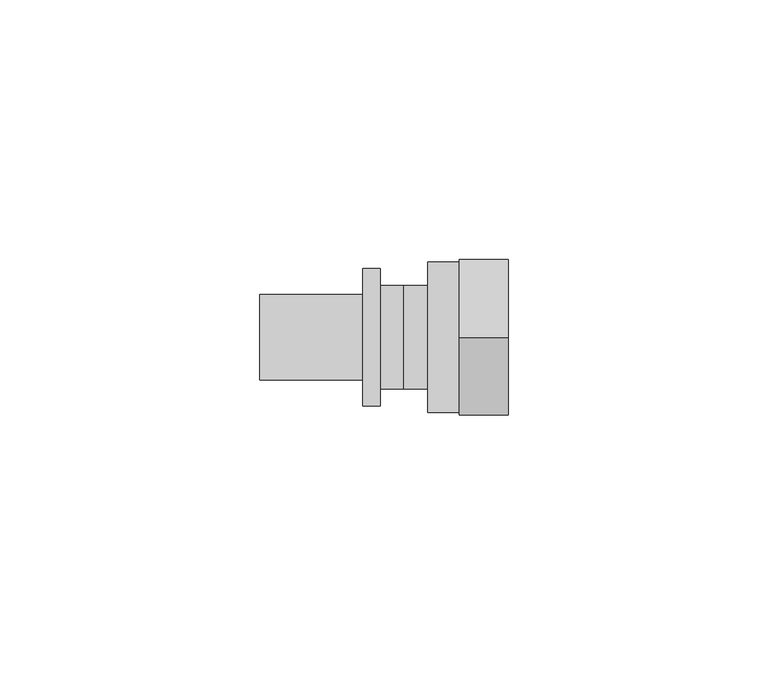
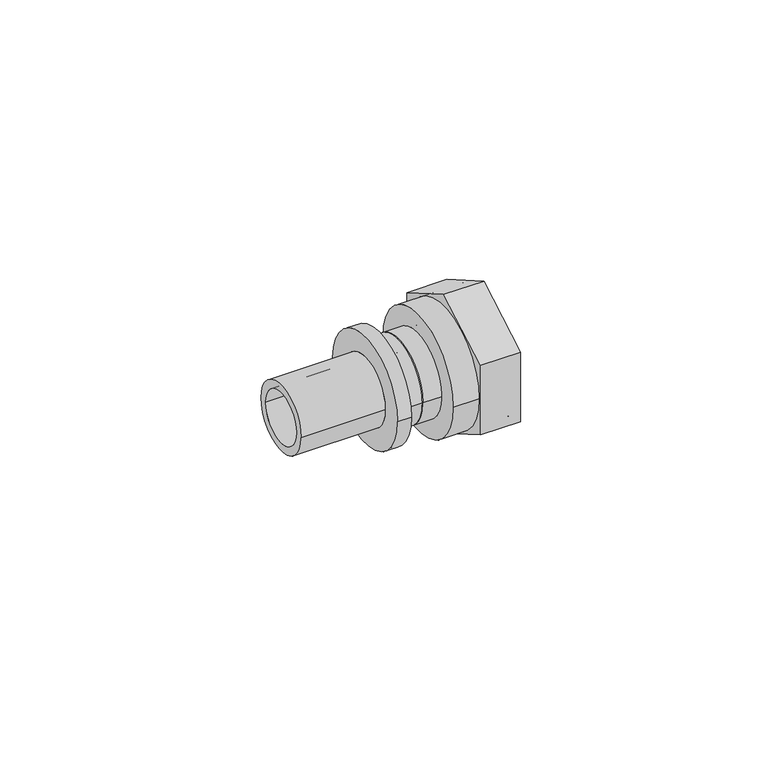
"""IFC4 building model written with IfcOpenShell, lengths in millimetres: pipe fitting geometry, REHAU_RAUTITAN_Adaptor_RX+_union nut : REHAU_RAUTITAN_Adaptor_RX+_union nut."""

from ifc_helpers import new_model, si_unit, point, frame, origin, origin_2d, place, context, project, spatial, polyline, circle_curve, trimmed, segment, composite_curve, outline, extrude, source, transform, mapped, element, save
from ifc_brep_helpers import plane_surface, cylinder_surface, revolved_surface, advanced_brep


def pipe_fitting_7c62dc51(model_context):
    return source(origin(), model_context, "Body", "SolidModel", [
        extrude(outline(polyline([(0.0, -17.3205081), (-15.0, -8.660254), (-15.0, 8.660254), (0.0, 17.3205081), (15.0, 8.660254), (15.0, -8.660254), (0.0, -17.3205081)]), holes=[composite_curve([segment(trimmed(circle_curve(origin_2d(), 14.5), [point((-14.5, 0.0))], [point((14.5, 0.0))], True, "CARTESIAN"), True, "CONTINUOUS"), segment(trimmed(circle_curve(origin_2d(), 14.5), [point((14.5, 0.0))], [point((-14.5, 0.0))], True, "CARTESIAN"), True, "CONTINUOUS")], self_intersect=False)]), frame((10.65, 0.0, 0.0), z_axis=(1.0, 0.0, 0.0), x_axis=(0.0, 1.0, 0.0)), (0.0, 0.0, 1.0), 9.5),
        advanced_brep(
        [(20.15, 14.5, 0.0), (20.15, -14.5, 0.0), (4.65, -14.5, 0.0), (4.65, 14.5, 0.0), (7.45, 12.0, 0.0), (7.45, -12.0, 0.0), (20.15, -12.0, 0.0), (20.15, 12.0, 0.0), (4.65, 9.2, 0.0), (4.65, -9.2, 0.0), (7.45, -9.2, 0.0), (7.45, 9.2, 0.0)],
        [
            (0, 1, circle_curve(frame((20.15, 0.0, 0.0), z_axis=(-1.0, 0.0, 0.0), x_axis=(0.0, -1.0, 0.0)), 14.5)),
            (1, 2),
            (2, 3, circle_curve(frame((4.65, 0.0, 0.0), z_axis=(1.0, 0.0, 0.0), x_axis=(0.0, -1.0, 0.0)), 14.5)),
            (3, 0),
            (4, 5, circle_curve(frame((7.45, 0.0, 0.0), z_axis=(-1.0, 0.0, 0.0), x_axis=(0.0, -1.0, 0.0)), 12.0)),
            (5, 6),
            (6, 7, circle_curve(frame((20.15, 0.0, 0.0), z_axis=(1.0, 0.0, 0.0), x_axis=(0.0, -1.0, 0.0)), 12.0)),
            (7, 4),
            (8, 9, circle_curve(frame((4.65, 0.0, 0.0), z_axis=(-1.0, 0.0, 0.0), x_axis=(0.0, -1.0, 0.0)), 9.2)),
            (9, 10),
            (10, 11, circle_curve(frame((7.45, 0.0, 0.0), z_axis=(1.0, 0.0, 0.0), x_axis=(0.0, -1.0, 0.0)), 9.2)),
            (11, 8),
            (1, 0, circle_curve(frame((20.15, 0.0, 0.0), z_axis=(-1.0, 0.0, 0.0), x_axis=(0.0, 1.0, 0.0)), 14.5)),
            (3, 2, circle_curve(frame((4.65, 0.0, 0.0), z_axis=(1.0, 0.0, 0.0), x_axis=(0.0, 1.0, 0.0)), 14.5)),
            (6, 7, circle_curve(frame((20.15, 0.0, 0.0), z_axis=(-1.0, 0.0, 0.0), x_axis=(0.0, 1.0, 0.0)), 12.0)),
            (5, 4, circle_curve(frame((7.45, 0.0, 0.0), z_axis=(-1.0, 0.0, 0.0), x_axis=(0.0, 1.0, 0.0)), 12.0)),
            (10, 11, circle_curve(frame((7.45, 0.0, 0.0), z_axis=(-1.0, 0.0, 0.0), x_axis=(0.0, 1.0, 0.0)), 9.2)),
            (9, 8, circle_curve(frame((4.65, 0.0, 0.0), z_axis=(-1.0, 0.0, 0.0), x_axis=(0.0, 1.0, 0.0)), 9.2)),
        ],
        [
            cylinder_surface(frame((0.0, 0.0, 0.0), z_axis=(1.0, 0.0, 0.0), x_axis=(0.0, -1.0, 0.0)), 14.5),
            revolved_surface(polyline([(20.15, -12.0, 0.0), (7.45, -12.0, 0.0)]), (0.0, 0.0, 0.0), (1.0, 0.0, 0.0)),
            revolved_surface(polyline([(7.45, -9.2, 0.0), (4.65, -9.2, 0.0)]), (0.0, 0.0, 0.0), (1.0, 0.0, 0.0)),
            cylinder_surface(frame((0.0, 0.0, 0.0), z_axis=(1.0, 0.0, 0.0), x_axis=(0.0, 1.0, 0.0)), 14.5),
            plane_surface(frame((20.15, 0.0, 0.0), z_axis=(1.0, 0.0, 0.0), x_axis=(0.0, 1.0, 0.0))),
            revolved_surface(polyline([(20.15, 12.0, 0.0), (7.45, 12.0, 0.0)]), (0.0, 0.0, 0.0), (1.0, 0.0, 0.0)),
            plane_surface(frame((7.45, 0.0, 0.0), z_axis=(1.0, 0.0, 0.0), x_axis=(0.0, 1.0, 0.0))),
            revolved_surface(polyline([(7.45, 9.2, 0.0), (4.65, 9.2, 0.0)]), (0.0, 0.0, 0.0), (1.0, 0.0, 0.0)),
            plane_surface(frame((4.65, 0.0, 0.0), z_axis=(-1.0, 0.0, 0.0), x_axis=(0.0, 1.0, 0.0))),
        ],
        [
            (0, [[1, 2, 3, 4]]),
            (1, [[5, 6, 7, 8]]),
            (2, [[9, 10, 11, 12]]),
            (3, [[13, -4, 14, -2]]),
            (4, [[-13, -1], [15, -7]]),
            (5, [[16, -8, -15, -6]]),
            (6, [[-16, -5], [17, -11]]),
            (7, [[18, -12, -17, -10]]),
            (8, [[-14, -3], [-18, -9]]),
        ],
    ),
        advanced_brep(
        [(7.45, 10.0, 0.0), (7.45, -10.0, 0.0), (0.0, -10.0, 0.0), (0.0, 10.0, 0.0), (10.45, 12.0, 0.0), (10.45, -12.0, 0.0), (7.45, -12.0, 0.0), (7.45, 12.0, 0.0), (1.4730817, 7.25, 0.0), (1.4730817, -7.25, 0.0), (10.45, -7.25, 0.0), (10.45, 7.25, 0.0), (0.0, 5.0764556, 0.0), (0.0, -5.0764556, 0.0), (1.4730817, -5.0764556, 0.0), (1.4730817, 5.0764556, 0.0)],
        [
            (0, 1, circle_curve(frame((7.45, 0.0, 0.0), z_axis=(-1.0, 0.0, 0.0), x_axis=(0.0, -1.0, 0.0)), 10.0)),
            (1, 2),
            (2, 3, circle_curve(frame((0.0, 0.0, 0.0), z_axis=(1.0, 0.0, 0.0), x_axis=(0.0, -1.0, 0.0)), 10.0)),
            (3, 0),
            (4, 5, circle_curve(frame((10.45, 0.0, 0.0), z_axis=(-1.0, 0.0, 0.0), x_axis=(0.0, -1.0, 0.0)), 12.0)),
            (5, 6),
            (6, 7, circle_curve(frame((7.45, 0.0, 0.0), z_axis=(1.0, 0.0, 0.0), x_axis=(0.0, -1.0, 0.0)), 12.0)),
            (7, 4),
            (8, 9, circle_curve(frame((1.4730817, 0.0, 0.0), z_axis=(-1.0, 0.0, 0.0), x_axis=(0.0, -1.0, 0.0)), 7.25)),
            (9, 10),
            (10, 11, circle_curve(frame((10.45, 0.0, 0.0), z_axis=(1.0, 0.0, 0.0), x_axis=(0.0, -1.0, 0.0)), 7.25)),
            (11, 8),
            (2, 3, circle_curve(frame((0.0, 0.0, 0.0), z_axis=(-1.0, 0.0, 0.0), x_axis=(0.0, 1.0, 0.0)), 10.0)),
            (12, 13, circle_curve(frame((0.0, 0.0, 0.0), z_axis=(1.0, 0.0, 0.0), x_axis=(0.0, 1.0, 0.0)), 5.0764556)),
            (13, 12, circle_curve(frame((0.0, 0.0, 0.0), z_axis=(1.0, 0.0, 0.0), x_axis=(0.0, -1.0, 0.0)), 5.0764556)),
            (1, 0, circle_curve(frame((7.45, 0.0, 0.0), z_axis=(-1.0, 0.0, 0.0), x_axis=(0.0, 1.0, 0.0)), 10.0)),
            (6, 7, circle_curve(frame((7.45, 0.0, 0.0), z_axis=(-1.0, 0.0, 0.0), x_axis=(0.0, 1.0, 0.0)), 12.0)),
            (5, 4, circle_curve(frame((10.45, 0.0, 0.0), z_axis=(-1.0, 0.0, 0.0), x_axis=(0.0, 1.0, 0.0)), 12.0)),
            (10, 11, circle_curve(frame((10.45, 0.0, 0.0), z_axis=(-1.0, 0.0, 0.0), x_axis=(0.0, 1.0, 0.0)), 7.25)),
            (9, 8, circle_curve(frame((1.4730817, 0.0, 0.0), z_axis=(-1.0, 0.0, 0.0), x_axis=(0.0, 1.0, 0.0)), 7.25)),
            (13, 14),
            (14, 15, circle_curve(frame((1.4730817, 0.0, 0.0), z_axis=(1.0, 0.0, 0.0), x_axis=(0.0, -1.0, 0.0)), 5.0764556)),
            (15, 12),
            (14, 15, circle_curve(frame((1.4730817, 0.0, 0.0), z_axis=(-1.0, 0.0, 0.0), x_axis=(0.0, 1.0, 0.0)), 5.0764556)),
        ],
        [
            cylinder_surface(frame((0.0, 0.0, 0.0), z_axis=(1.0, 0.0, 0.0), x_axis=(0.0, -1.0, 0.0)), 10.0),
            cylinder_surface(frame((0.0, 0.0, 0.0), z_axis=(1.0, 0.0, 0.0), x_axis=(0.0, -1.0, 0.0)), 12.0),
            revolved_surface(polyline([(10.45, -7.25, 0.0), (1.4730817, -7.25, 0.0)]), (0.0, 0.0, 0.0), (1.0, 0.0, 0.0)),
            plane_surface(frame((0.0, 0.0, 0.0), z_axis=(-1.0, 0.0, 0.0), x_axis=(0.0, 1.0, 0.0))),
            cylinder_surface(frame((0.0, 0.0, 0.0), z_axis=(1.0, 0.0, 0.0), x_axis=(0.0, 1.0, 0.0)), 10.0),
            plane_surface(frame((7.45, 0.0, 0.0), z_axis=(-1.0, 0.0, 0.0), x_axis=(0.0, 1.0, 0.0))),
            cylinder_surface(frame((0.0, 0.0, 0.0), z_axis=(1.0, 0.0, 0.0), x_axis=(0.0, 1.0, 0.0)), 12.0),
            plane_surface(frame((10.45, 0.0, 0.0), z_axis=(1.0, 0.0, 0.0), x_axis=(0.0, 1.0, 0.0))),
            revolved_surface(polyline([(10.45, 7.25, 0.0), (1.4730817, 7.25, 0.0)]), (0.0, 0.0, 0.0), (1.0, 0.0, 0.0)),
            revolved_surface(polyline([(1.4730817, -5.0764556, 0.0), (0.0, -5.0764556, 0.0)]), (0.0, 0.0, 0.0), (1.0, 0.0, 0.0)),
            plane_surface(frame((1.4730817, 0.0, 0.0), z_axis=(1.0, 0.0, 0.0), x_axis=(0.0, 1.0, 0.0))),
            revolved_surface(polyline([(1.4730817, 5.0764556, 0.0), (0.0, 5.0764556, 0.0)]), (0.0, 0.0, 0.0), (1.0, 0.0, 0.0)),
        ],
        [
            (0, [[1, 2, 3, 4]]),
            (1, [[5, 6, 7, 8]]),
            (2, [[9, 10, 11, 12]]),
            (3, [[13, -3], [14, 15]]),
            (4, [[16, -4, -13, -2]]),
            (5, [[17, -7], [-16, -1]]),
            (6, [[18, -8, -17, -6]]),
            (7, [[-18, -5], [19, -11]]),
            (8, [[20, -12, -19, -10]]),
            (9, [[-15, 21, 22, 23]]),
            (10, [[-20, -9], [24, -22]]),
            (11, [[-14, -23, -24, -21]]),
        ],
    ),
        advanced_brep(
        [(0.0, 10.0, 0.0), (0.0, -10.0, 0.0), (-4.55, -10.0, 0.0), (-4.55, 10.0, 0.0), (-27.75, 6.25, 0.0), (-27.75, -6.25, 0.0), (0.0, -6.25, 0.0), (0.0, 6.25, 0.0), (-7.9, 8.225, 0.0), (-7.9, -8.225, 0.0), (-27.75, -8.225, 0.0), (-27.75, 8.225, 0.0), (-4.55, 13.25, 0.0), (-4.55, -13.25, 0.0), (-7.9, -13.25, 0.0), (-7.9, 13.25, 0.0)],
        [
            (0, 1, circle_curve(frame((0.0, 0.0, 0.0), z_axis=(-1.0, 0.0, 0.0), x_axis=(0.0, -1.0, 0.0)), 10.0)),
            (1, 2),
            (2, 3, circle_curve(frame((-4.55, 0.0, 0.0), z_axis=(1.0, 0.0, 0.0), x_axis=(0.0, -1.0, 0.0)), 10.0)),
            (3, 0),
            (4, 5, circle_curve(frame((-27.75, 0.0, 0.0), z_axis=(-1.0, 0.0, 0.0), x_axis=(0.0, -1.0, 0.0)), 6.25)),
            (5, 6),
            (6, 7, circle_curve(frame((0.0, 0.0, 0.0), z_axis=(1.0, 0.0, 0.0), x_axis=(0.0, -1.0, 0.0)), 6.25)),
            (7, 4),
            (8, 9, circle_curve(frame((-7.9, 0.0, 0.0), z_axis=(-1.0, 0.0, 0.0), x_axis=(0.0, -1.0, 0.0)), 8.225)),
            (9, 10),
            (10, 11, circle_curve(frame((-27.75, 0.0, 0.0), z_axis=(1.0, 0.0, 0.0), x_axis=(0.0, -1.0, 0.0)), 8.225)),
            (11, 8),
            (12, 13, circle_curve(frame((-4.55, 0.0, 0.0), z_axis=(-1.0, 0.0, 0.0), x_axis=(0.0, -1.0, 0.0)), 13.25)),
            (13, 14),
            (14, 15, circle_curve(frame((-7.9, 0.0, 0.0), z_axis=(1.0, 0.0, 0.0), x_axis=(0.0, -1.0, 0.0)), 13.25)),
            (15, 12),
            (1, 0, circle_curve(frame((0.0, 0.0, 0.0), z_axis=(-1.0, 0.0, 0.0), x_axis=(0.0, 1.0, 0.0)), 10.0)),
            (3, 2, circle_curve(frame((-4.55, 0.0, 0.0), z_axis=(1.0, 0.0, 0.0), x_axis=(0.0, 1.0, 0.0)), 10.0)),
            (6, 7, circle_curve(frame((0.0, 0.0, 0.0), z_axis=(-1.0, 0.0, 0.0), x_axis=(0.0, 1.0, 0.0)), 6.25)),
            (5, 4, circle_curve(frame((-27.75, 0.0, 0.0), z_axis=(-1.0, 0.0, 0.0), x_axis=(0.0, 1.0, 0.0)), 6.25)),
            (10, 11, circle_curve(frame((-27.75, 0.0, 0.0), z_axis=(-1.0, 0.0, 0.0), x_axis=(0.0, 1.0, 0.0)), 8.225)),
            (9, 8, circle_curve(frame((-7.9, 0.0, 0.0), z_axis=(-1.0, 0.0, 0.0), x_axis=(0.0, 1.0, 0.0)), 8.225)),
            (14, 15, circle_curve(frame((-7.9, 0.0, 0.0), z_axis=(-1.0, 0.0, 0.0), x_axis=(0.0, 1.0, 0.0)), 13.25)),
            (13, 12, circle_curve(frame((-4.55, 0.0, 0.0), z_axis=(-1.0, 0.0, 0.0), x_axis=(0.0, 1.0, 0.0)), 13.25)),
        ],
        [
            cylinder_surface(frame((0.0, 0.0, 0.0), z_axis=(1.0, 0.0, 0.0), x_axis=(0.0, -1.0, 0.0)), 10.0),
            revolved_surface(polyline([(0.0, -6.25, 0.0), (-27.75, -6.25, 0.0)]), (0.0, 0.0, 0.0), (1.0, 0.0, 0.0)),
            cylinder_surface(frame((0.0, 0.0, 0.0), z_axis=(1.0, 0.0, 0.0), x_axis=(0.0, -1.0, 0.0)), 8.225),
            cylinder_surface(frame((0.0, 0.0, 0.0), z_axis=(1.0, 0.0, 0.0), x_axis=(0.0, -1.0, 0.0)), 13.25),
            cylinder_surface(frame((0.0, 0.0, 0.0), z_axis=(1.0, 0.0, 0.0), x_axis=(0.0, 1.0, 0.0)), 10.0),
            plane_surface(frame((0.0, 0.0, 0.0), z_axis=(1.0, 0.0, 0.0), x_axis=(0.0, 1.0, 0.0))),
            revolved_surface(polyline([(0.0, 6.25, 0.0), (-27.75, 6.25, 0.0)]), (0.0, 0.0, 0.0), (1.0, 0.0, 0.0)),
            plane_surface(frame((-27.75, 0.0, 0.0), z_axis=(-1.0, 0.0, 0.0), x_axis=(0.0, 1.0, 0.0))),
            cylinder_surface(frame((0.0, 0.0, 0.0), z_axis=(1.0, 0.0, 0.0), x_axis=(0.0, 1.0, 0.0)), 8.225),
            plane_surface(frame((-7.9, 0.0, 0.0), z_axis=(-1.0, 0.0, 0.0), x_axis=(0.0, 1.0, 0.0))),
            cylinder_surface(frame((0.0, 0.0, 0.0), z_axis=(1.0, 0.0, 0.0), x_axis=(0.0, 1.0, 0.0)), 13.25),
            plane_surface(frame((-4.55, 0.0, 0.0), z_axis=(1.0, 0.0, 0.0), x_axis=(0.0, 1.0, 0.0))),
        ],
        [
            (0, [[1, 2, 3, 4]]),
            (1, [[5, 6, 7, 8]]),
            (2, [[9, 10, 11, 12]]),
            (3, [[13, 14, 15, 16]]),
            (4, [[17, -4, 18, -2]]),
            (5, [[-17, -1], [19, -7]]),
            (6, [[20, -8, -19, -6]]),
            (7, [[21, -11], [-20, -5]]),
            (8, [[22, -12, -21, -10]]),
            (9, [[23, -15], [-22, -9]]),
            (10, [[24, -16, -23, -14]]),
            (11, [[-24, -13], [-18, -3]]),
        ],
    ),
    ])


if __name__ == "__main__":
    model = new_model("IFC4")
    model_context = context("Model", 3, world=origin())
    ifc_project = project(units=[si_unit("LENGTHUNIT", "METRE", prefix="MILLI")], contexts=[model_context])
    site = spatial("IfcSite", under=ifc_project)
    building = spatial("IfcBuilding", under=site)
    placement = place(None, origin())
    pipe_fitting_shape = pipe_fitting_7c62dc51(model_context)
    element("IfcPipeFitting", 1, ObjectType="REHAU_RAUTITAN_Adaptor_RX+_union nut : REHAU_RAUTITAN_Adaptor_RX+_union nut", at=placement, inside=building, context=model_context, shape_type="MappedRepresentation", body=[
        mapped(pipe_fitting_shape, transform((0.0, 0.0, 0.0), x_axis=(1.0, 0.0, 0.0), y_axis=(0.0, 1.0, 0.0), z_axis=(0.0, 0.0, 1.0))),
    ])
    save(model, "model.ifc")
